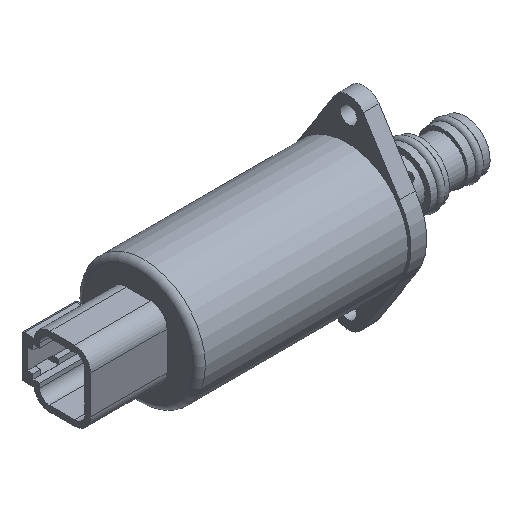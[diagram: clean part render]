
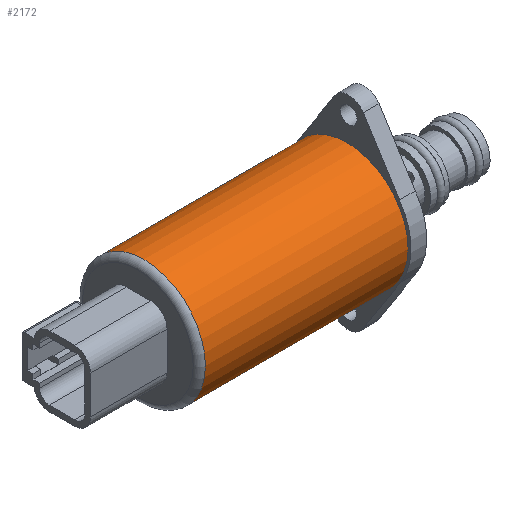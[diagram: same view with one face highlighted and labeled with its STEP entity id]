
A CAD part, isometric view. The second image highlights one B-rep face of the part: STEP entity #2172.
In plain terms, the highlighted cylindrical face has radius 16.027 mm (diameter 32.055 mm), a full revolution.
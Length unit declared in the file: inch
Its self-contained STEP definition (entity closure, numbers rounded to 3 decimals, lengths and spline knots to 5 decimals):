
#41=CYLINDRICAL_SURFACE('',#2363,0.631);
#103=LINE('',#3340,#266);
#266=VECTOR('',#2700,0.631);
#529=FACE_OUTER_BOUND('',#658,.T.);
#658=EDGE_LOOP('',(#1521,#1522,#1523,#1524,#1525));
#829=CIRCLE('',#2360,0.631);
#830=CIRCLE('',#2361,0.631);
#832=CIRCLE('',#2364,0.631);
#957=VERTEX_POINT('',#3332);
#958=VERTEX_POINT('',#3333);
#959=VERTEX_POINT('',#3338);
#1176=EDGE_CURVE('',#957,#958,#829,.T.);
#1177=EDGE_CURVE('',#958,#957,#830,.T.);
#1179=EDGE_CURVE('',#959,#959,#832,.T.);
#1180=EDGE_CURVE('',#959,#958,#103,.T.);
#1521=ORIENTED_EDGE('',*,*,#1179,.F.);
#1522=ORIENTED_EDGE('',*,*,#1180,.T.);
#1523=ORIENTED_EDGE('',*,*,#1176,.F.);
#1524=ORIENTED_EDGE('',*,*,#1177,.F.);
#1525=ORIENTED_EDGE('',*,*,#1180,.F.);
#2172=ADVANCED_FACE('',(#529),#41,.T.);
#2360=AXIS2_PLACEMENT_3D('',#3334,#2690,#2691);
#2361=AXIS2_PLACEMENT_3D('',#3335,#2692,#2693);
#2363=AXIS2_PLACEMENT_3D('',#3337,#2696,#2697);
#2364=AXIS2_PLACEMENT_3D('',#3339,#2698,#2699);
#2690=DIRECTION('center_axis',(-1.,0.,0.));
#2691=DIRECTION('ref_axis',(0.,-1.,0.));
#2692=DIRECTION('center_axis',(-1.,0.,0.));
#2693=DIRECTION('ref_axis',(0.,-1.,0.));
#2696=DIRECTION('center_axis',(1.,0.,0.));
#2697=DIRECTION('ref_axis',(0.,1.,0.));
#2698=DIRECTION('center_axis',(1.,0.,0.));
#2699=DIRECTION('ref_axis',(0.,1.,0.));
#2700=DIRECTION('',(-1.,0.,0.));
#3332=CARTESIAN_POINT('',(-1.91152,0.00995,0.631));
#3333=CARTESIAN_POINT('',(-1.91152,-0.62105,0.));
#3334=CARTESIAN_POINT('Origin',(-1.91152,0.00995,0.));
#3335=CARTESIAN_POINT('Origin',(-1.91152,0.00995,0.));
#3337=CARTESIAN_POINT('Origin',(-0.90235,0.00995,0.));
#3338=CARTESIAN_POINT('',(0.16932,-0.62105,0.));
#3339=CARTESIAN_POINT('Origin',(0.16932,0.00995,0.));
#3340=CARTESIAN_POINT('',(-0.90235,-0.62105,0.));
